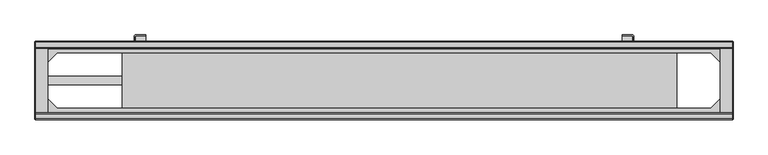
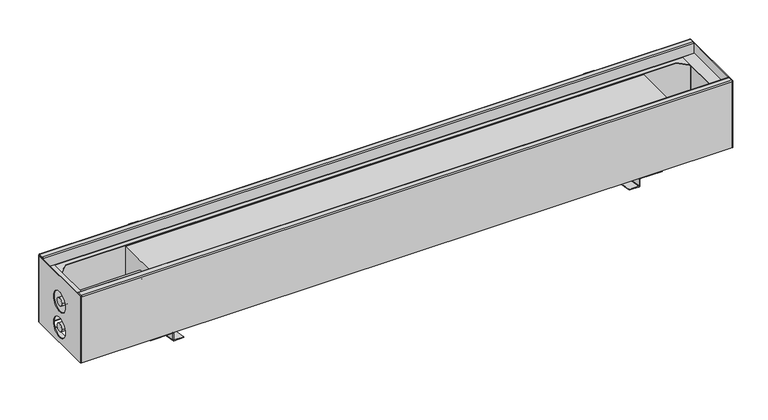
"""IFC4 building model written with IfcOpenShell, lengths in millimetres: proxy geometry, TECHNO_Конвектор напольный_Vita KPZ 135 : KPZ 135-130."""

from ifc_helpers import new_model, si_unit, point, frame, frame_2d, origin, place, context, project, spatial, polyline, circle_curve, trimmed, segment, composite_curve, outline, extrude, source, transform, mapped, element, save
from ifc_brep_helpers import plane_surface, cylinder_surface, revolved_surface, advanced_brep


def mechanical_equipment_4baf3725(model_context):
    return source(origin(), model_context, "Body", "SolidModel", [
        advanced_brep(
        [(430.3, -144.3, 97.67), (471.0, -144.3, 97.67), (471.0, -144.3, 99.17), (430.3, -144.3, 99.17), (428.0, -144.3, 96.87), (428.0, -144.3, 85.0), (429.5, -144.3, 85.0), (429.5, -144.3, 96.87), (430.3, -128.3, 99.17), (471.0, -128.3, 99.17), (471.0, -128.3, 97.67), (430.3, -128.3, 97.67), (429.5, -128.3, 96.87), (428.0, -128.3, 96.87), (473.0, -142.3, 99.17), (473.0, -130.3, 99.17), (473.0, -142.3, 97.67), (473.0, -130.3, 97.67), (428.0, -28.3, 96.87), (428.0, -12.3, 96.87), (428.0, -8.3, 96.87), (428.0, -8.3, 219.87), (428.0, -6.3, 221.87), (428.0, -2.3, 221.87), (428.0, -2.3, 59.9615687), (429.5, -8.3, 96.87), (429.5, -12.3, 96.87), (429.5, -28.3, 96.87), (429.5, -2.3, 59.9615687), (429.5, -2.3, 221.87), (429.5, -6.3, 221.87), (429.5, -8.3, 219.87), (427.2, 0.0, 221.87), (409.5, 0.0, 221.87), (409.5, -1.5, 221.87), (427.2, -1.5, 221.87), (430.3, -28.3, 97.67), (471.0, -28.3, 97.67), (471.0, -28.3, 99.17), (430.3, -28.3, 99.17), (430.3, -12.3, 99.17), (471.0, -12.3, 99.17), (471.0, -12.3, 97.67), (430.3, -12.3, 97.67), (473.0, -26.3, 99.17), (473.0, -14.3, 99.17), (473.0, -26.3, 97.67), (473.0, -14.3, 97.67), (409.5, -2.6993908, 57.6965109), (409.5, -2.4389185, 59.1737225), (427.2, -2.4389185, 59.1737225), (427.2, -2.6993908, 57.6965109), (409.5, -144.6993908, 82.7349422), (427.2, -144.6993908, 82.7349422), (427.2, -144.4389185, 84.2121538), (409.5, -144.4389185, 84.2121538), (409.5, -1.5, 59.9615687), (409.5, 0.0, 59.9615687), (427.2, 0.0, 59.9615687), (427.2, -1.5, 59.9615687)],
        [
            (0, 1),
            (1, 2),
            (2, 3),
            (3, 4, circle_curve(frame((430.3, -144.3, 96.87), z_axis=(0.0, -1.0, 0.0), x_axis=(-1.0, 0.0, 0.0)), 2.3)),
            (4, 5),
            (5, 6),
            (6, 7),
            (7, 0, circle_curve(frame((430.3, -144.3, 96.87), z_axis=(0.0, 1.0, 0.0), x_axis=(-1.0, 0.0, 0.0)), 0.8)),
            (8, 9),
            (9, 10),
            (10, 11),
            (11, 12, circle_curve(frame((430.3, -128.3, 96.87), z_axis=(0.0, -1.0, 0.0), x_axis=(-1.0, 0.0, 0.0)), 0.8)),
            (12, 13),
            (13, 8, circle_curve(frame((430.3, -128.3, 96.87), z_axis=(0.0, 1.0, 0.0), x_axis=(-1.0, 0.0, 0.0)), 2.3)),
            (7, 12),
            (11, 0),
            (3, 8),
            (13, 4),
            (2, 14),
            (14, 15),
            (15, 9),
            (16, 17),
            (17, 15),
            (14, 16),
            (10, 17),
            (16, 1),
            (13, 18),
            (18, 19),
            (19, 20),
            (20, 21),
            (21, 22),
            (22, 23),
            (23, 24),
            (24, 5),
            (25, 26),
            (26, 27),
            (27, 12),
            (6, 28),
            (28, 29),
            (29, 30),
            (30, 31),
            (31, 25),
            (19, 26),
            (25, 20),
            (27, 18),
            (22, 30),
            (29, 32, circle_curve(frame((427.2, -2.3, 221.87), z_axis=(0.0, 0.0, 1.0), x_axis=(1.0, 0.0, 0.0)), 2.3)),
            (32, 33),
            (33, 34),
            (34, 35),
            (35, 23, circle_curve(frame((427.2, -2.3, 221.87), z_axis=(0.0, 0.0, -1.0), x_axis=(1.0, 0.0, 0.0)), 0.8)),
            (21, 31),
            (36, 37),
            (37, 38),
            (38, 39),
            (39, 18, circle_curve(frame((430.3, -28.3, 96.87), z_axis=(0.0, -1.0, 0.0), x_axis=(-1.0, 0.0, 0.0)), 2.3)),
            (27, 36, circle_curve(frame((430.3, -28.3, 96.87), z_axis=(0.0, 1.0, 0.0), x_axis=(-1.0, 0.0, 0.0)), 0.8)),
            (40, 41),
            (41, 42),
            (42, 43),
            (43, 26, circle_curve(frame((430.3, -12.3, 96.87), z_axis=(0.0, -1.0, 0.0), x_axis=(-1.0, 0.0, 0.0)), 0.8)),
            (19, 40, circle_curve(frame((430.3, -12.3, 96.87), z_axis=(0.0, 1.0, 0.0), x_axis=(-1.0, 0.0, 0.0)), 2.3)),
            (43, 36),
            (39, 40),
            (38, 44),
            (44, 45),
            (45, 41),
            (44, 46),
            (46, 47),
            (47, 45),
            (42, 47),
            (46, 37),
            (48, 49),
            (49, 50),
            (50, 24, circle_curve(frame((427.2, -2.3, 59.9615687), z_axis=(0.0, -0.9848077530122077, 0.17364817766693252), x_axis=(0.0, 0.17364817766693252, 0.9848077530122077)), 0.8)),
            (24, 28),
            (28, 51, circle_curve(frame((427.2, -2.3, 59.9615687), z_axis=(0.0, 0.9848077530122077, -0.17364817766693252), x_axis=(0.0, 0.17364817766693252, 0.9848077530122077)), 2.3)),
            (51, 48),
            (52, 53),
            (53, 6, circle_curve(frame((427.2, -144.3, 85.0), z_axis=(0.0, -0.9848077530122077, 0.17364817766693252), x_axis=(0.0, 0.17364817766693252, 0.9848077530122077)), 2.3)),
            (5, 54, circle_curve(frame((427.2, -144.3, 85.0), z_axis=(0.0, 0.9848077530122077, -0.17364817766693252), x_axis=(0.0, 0.17364817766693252, 0.9848077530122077)), 0.8)),
            (54, 55),
            (55, 52),
            (51, 53),
            (52, 48),
            (50, 54),
            (49, 55),
            (56, 57),
            (57, 58),
            (58, 28, circle_curve(frame((427.2, -2.3, 59.9615687), z_axis=(0.0, 0.0, -1.0), x_axis=(1.0, 0.0, 0.0)), 2.3)),
            (24, 59, circle_curve(frame((427.2, -2.3, 59.9615687), z_axis=(0.0, 0.0, 1.0), x_axis=(1.0, 0.0, 0.0)), 0.8)),
            (59, 56),
            (33, 57),
            (56, 34),
            (32, 58),
            (35, 59),
        ],
        [
            plane_surface(frame((429.5, -144.3, 96.87), z_axis=(0.0, -1.0, 0.0), x_axis=(0.0, 0.0, -1.0))),
            plane_surface(frame((429.5, -128.3, 96.87), z_axis=(0.0, 1.0, 0.0), x_axis=(0.0, 0.0, 1.0))),
            revolved_surface(polyline([(429.5, -128.3, 96.87), (429.5, -144.3, 96.87)]), (430.3, -128.3, 96.87), (0.0, 1.0, 0.0)),
            cylinder_surface(frame((430.3, -128.3, 96.87), z_axis=(0.0, -1.0, 0.0), x_axis=(-1.0, 0.0, 0.0)), 2.3),
            plane_surface(frame((430.3, -144.3, 99.17), z_axis=(0.0, 0.0, 1.0), x_axis=(0.0, 1.0, 0.0))),
            plane_surface(frame((473.0, -144.3, 99.17), z_axis=(1.0, 0.0, 0.0), x_axis=(0.0, 1.0, 0.0))),
            plane_surface(frame((473.0, -144.3, 97.67), z_axis=(0.0, 0.0, -1.0), x_axis=(0.0, 1.0, 0.0))),
            plane_surface(frame((471.0, -144.3, 99.17), z_axis=(0.7071067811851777, -0.7071067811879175, 0.0), x_axis=(0.0, 0.0, -1.0))),
            plane_surface(frame((471.0, -128.3, 97.67), z_axis=(0.7071067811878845, 0.7071067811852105, 0.0), x_axis=(0.0, 0.0, 1.0))),
            plane_surface(frame((428.0, -8.3, 96.87), z_axis=(-1.0, 0.0, 0.0), x_axis=(0.0, -1.0, 0.0))),
            plane_surface(frame((429.5, -8.3, 96.87), z_axis=(1.0, 0.0, 0.0), x_axis=(0.0, 1.0, 0.0))),
            plane_surface(frame((428.0, -8.3, 96.87), z_axis=(0.0, 0.0, 1.0), x_axis=(1.0, 0.0, 0.0))),
            plane_surface(frame((428.0, -2.3, 221.87), z_axis=(0.0, 0.0, 1.0), x_axis=(1.0, 0.0, 0.0))),
            plane_surface(frame((428.0, -6.3, 221.87), z_axis=(0.0, -0.7071067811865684, 0.7071067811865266), x_axis=(1.0, 0.0, 0.0))),
            plane_surface(frame((428.0, -8.3, 219.87), z_axis=(0.0, -1.0, 0.0), x_axis=(1.0, 0.0, 0.0))),
            plane_surface(frame((429.5, -28.3, 96.87), z_axis=(0.0, -1.0, 0.0), x_axis=(0.0, 0.0, -1.0))),
            plane_surface(frame((429.5, -12.3, 96.87), z_axis=(0.0, 1.0, 0.0), x_axis=(0.0, 0.0, 1.0))),
            revolved_surface(polyline([(429.5, -12.3, 96.87), (429.5, -28.3, 96.87)]), (430.3, -12.3, 96.87), (0.0, 1.0, 0.0)),
            cylinder_surface(frame((430.3, -12.3, 96.87), z_axis=(0.0, -1.0, 0.0), x_axis=(-1.0, 0.0, 0.0)), 2.3),
            plane_surface(frame((430.3, -28.3, 99.17), z_axis=(0.0, 0.0, 1.0), x_axis=(0.0, 1.0, 0.0))),
            plane_surface(frame((473.0, -28.3, 99.17), z_axis=(1.0, 0.0, 0.0), x_axis=(0.0, 1.0, 0.0))),
            plane_surface(frame((473.0, -28.3, 97.67), z_axis=(0.0, 0.0, -1.0), x_axis=(0.0, 1.0, 0.0))),
            plane_surface(frame((471.0, -12.3, 97.67), z_axis=(0.7071067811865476, 0.7071067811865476, 0.0), x_axis=(0.0, 0.0, 1.0))),
            plane_surface(frame((471.0, -28.3, 99.17), z_axis=(0.7071067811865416, -0.7071067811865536, 0.0), x_axis=(0.0, 0.0, -1.0))),
            plane_surface(frame((429.5, -2.3, 59.9615687), z_axis=(0.0, 0.9848077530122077, -0.17364817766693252), x_axis=(1.0, 0.0, 0.0))),
            plane_surface(frame((429.5, -144.3, 85.0), z_axis=(0.0, -0.9848077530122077, 0.17364817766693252), x_axis=(1.0, 0.0, 0.0))),
            plane_surface(frame((409.5, -2.6993908, 57.6965109), z_axis=(0.0, -0.17364817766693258, -0.9848077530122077), x_axis=(0.0, -0.9848077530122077, 0.17364817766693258))),
            cylinder_surface(frame((427.2, -2.3, 59.9615687), z_axis=(0.0, 0.9848077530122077, -0.17364817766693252), x_axis=(0.0, 0.17364817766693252, 0.9848077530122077)), 2.3),
            revolved_surface(polyline([(427.2, -144.16108146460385, 85.7878461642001), (427.2, -2.1610814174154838, 60.74941489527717)]), (427.2, -2.3, 59.9615687), (0.0, -0.9848077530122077, 0.17364817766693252)),
            plane_surface(frame((427.2, -2.4389185, 59.1737225), z_axis=(0.0, 0.17364817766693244, 0.9848077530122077), x_axis=(0.0, -0.9848077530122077, 0.17364817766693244))),
            plane_surface(frame((409.5, -2.4389185, 59.1737225), z_axis=(-1.0, 0.0, 0.0), x_axis=(0.0, -0.9848077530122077, 0.17364817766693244))),
            plane_surface(frame((429.5, -2.3, 59.9615687), z_axis=(0.0, 0.0, -1.0), x_axis=(1.0, 0.0, 0.0))),
            plane_surface(frame((409.5, -1.5, 221.87), z_axis=(-1.0, 0.0, 0.0), x_axis=(0.0, 0.0, -1.0))),
            plane_surface(frame((409.5, 0.0, 221.87), z_axis=(0.0, 1.0, 0.0), x_axis=(0.0, 0.0, -1.0))),
            cylinder_surface(frame((427.2, -2.3, 221.87), z_axis=(0.0, 0.0, 1.0), x_axis=(1.0, 0.0, 0.0)), 2.3),
            revolved_surface(polyline([(428.0, -2.3, 59.96156869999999), (428.0, -2.3, 221.87)]), (427.2, -2.3, 221.87), (0.0, 0.0, -1.0)),
            plane_surface(frame((427.2, -1.5, 221.87), z_axis=(0.0, -1.0, 0.0), x_axis=(0.0, 0.0, -1.0))),
        ],
        [
            (0, [[1, 2, 3, 4, 5, 6, 7, 8]]),
            (1, [[9, 10, 11, 12, 13, 14]]),
            (2, [[15, -12, 16, -8]]),
            (3, [[17, -14, 18, -4]]),
            (4, [[-3, 19, 20, 21, -9, -17]]),
            (5, [[22, 23, -20, 24]]),
            (6, [[-11, 25, -22, 26, -1, -16]]),
            (7, [[-26, -24, -19, -2]]),
            (8, [[-21, -23, -25, -10]]),
            (9, [[-18, 27, 28, 29, 30, 31, 32, 33, 34, -5]]),
            (10, [[35, 36, 37, -15, -7, 38, 39, 40, 41, 42]]),
            (11, [[-29, 43, -35, 44]]),
            (11, [[45, -27, -13, -37]]),
            (12, [[46, -40, 47, 48, 49, 50, 51, -32]]),
            (13, [[52, -41, -46, -31]]),
            (14, [[-44, -42, -52, -30]]),
            (15, [[53, 54, 55, 56, -45, 57]]),
            (16, [[58, 59, 60, 61, -43, 62]]),
            (17, [[-36, -61, 63, -57]]),
            (18, [[64, -62, -28, -56]]),
            (19, [[-55, 65, 66, 67, -58, -64]]),
            (20, [[-66, 68, 69, 70]]),
            (21, [[-60, 71, -69, 72, -53, -63]]),
            (22, [[-67, -70, -71, -59]]),
            (23, [[-72, -68, -65, -54]]),
            (24, [[73, 74, 75, 76, 77, 78]]),
            (25, [[79, 80, -6, 81, 82, 83]]),
            (26, [[84, -79, 85, -78]]),
            (27, [[-38, -80, -84, -77]]),
            (28, [[86, -81, -34, -75]]),
            (29, [[87, -82, -86, -74]]),
            (30, [[-85, -83, -87, -73]]),
            (31, [[88, 89, 90, -76, 91, 92]]),
            (32, [[93, -88, 94, -49]]),
            (33, [[95, -89, -93, -48]]),
            (34, [[-39, -90, -95, -47]]),
            (35, [[96, -91, -33, -51]]),
            (36, [[-94, -92, -96, -50]]),
        ],
    ),
        advanced_brep(
        [(-430.3, -144.3, 97.67), (-429.5, -144.3, 96.87), (-429.5, -144.3, 85.0), (-428.0, -144.3, 85.0), (-428.0, -144.3, 96.87), (-430.3, -144.3, 99.17), (-471.0, -144.3, 99.17), (-471.0, -144.3, 97.67), (-430.3, -128.3, 99.17), (-428.0, -128.3, 96.87), (-429.5, -128.3, 96.87), (-430.3, -128.3, 97.67), (-471.0, -128.3, 97.67), (-471.0, -128.3, 99.17), (-473.0, -130.3, 99.17), (-473.0, -142.3, 99.17), (-473.0, -142.3, 97.67), (-473.0, -130.3, 97.67), (-428.0, -2.3, 59.9615687), (-428.0, -2.3, 221.87), (-428.0, -6.3, 221.87), (-428.0, -8.3, 219.87), (-428.0, -8.3, 96.87), (-428.0, -12.3, 96.87), (-428.0, -28.3, 96.87), (-429.5, -8.3, 96.87), (-429.5, -8.3, 219.87), (-429.5, -6.3, 221.87), (-429.5, -2.3, 221.87), (-429.5, -2.3, 59.9615687), (-429.5, -28.3, 96.87), (-429.5, -12.3, 96.87), (-427.2, -1.5, 221.87), (-409.5, -1.5, 221.87), (-409.5, 0.0, 221.87), (-427.2, 0.0, 221.87), (-430.3, -28.3, 97.67), (-430.3, -28.3, 99.17), (-471.0, -28.3, 99.17), (-471.0, -28.3, 97.67), (-430.3, -12.3, 99.17), (-430.3, -12.3, 97.67), (-471.0, -12.3, 97.67), (-471.0, -12.3, 99.17), (-473.0, -14.3, 99.17), (-473.0, -26.3, 99.17), (-473.0, -14.3, 97.67), (-473.0, -26.3, 97.67), (-409.5, -2.6993908, 57.6965109), (-427.2, -2.6993908, 57.6965109), (-427.2, -2.4389185, 59.1737225), (-409.5, -2.4389185, 59.1737225), (-409.5, -144.6993908, 82.7349422), (-409.5, -144.4389185, 84.2121538), (-427.2, -144.4389185, 84.2121538), (-427.2, -144.6993908, 82.7349422), (-409.5, -1.5, 59.9615687), (-427.2, -1.5, 59.9615687), (-427.2, 0.0, 59.9615687), (-409.5, 0.0, 59.9615687)],
        [
            (0, 1, circle_curve(frame((-430.3, -144.3, 96.87), z_axis=(0.0, 1.0, 0.0), x_axis=(1.0, 0.0, 0.0)), 0.8)),
            (1, 2),
            (2, 3),
            (3, 4),
            (4, 5, circle_curve(frame((-430.3, -144.3, 96.87), z_axis=(0.0, -1.0, 0.0), x_axis=(1.0, 0.0, 0.0)), 2.3)),
            (5, 6),
            (6, 7),
            (7, 0),
            (8, 9, circle_curve(frame((-430.3, -128.3, 96.87), z_axis=(0.0, 1.0, 0.0), x_axis=(1.0, 0.0, 0.0)), 2.3)),
            (9, 10),
            (10, 11, circle_curve(frame((-430.3, -128.3, 96.87), z_axis=(0.0, -1.0, 0.0), x_axis=(1.0, 0.0, 0.0)), 0.8)),
            (11, 12),
            (12, 13),
            (13, 8),
            (0, 11),
            (10, 1),
            (4, 9),
            (8, 5),
            (13, 14),
            (14, 15),
            (15, 6),
            (16, 15),
            (14, 17),
            (17, 16),
            (7, 16),
            (17, 12),
            (3, 18),
            (18, 19),
            (19, 20),
            (20, 21),
            (21, 22),
            (22, 23),
            (23, 24),
            (24, 9),
            (25, 26),
            (26, 27),
            (27, 28),
            (28, 29),
            (29, 2),
            (10, 30),
            (30, 31),
            (31, 25),
            (24, 30),
            (22, 25),
            (31, 23),
            (19, 32, circle_curve(frame((-427.2, -2.3, 221.87), z_axis=(0.0, 0.0, -1.0), x_axis=(-1.0, 0.0, 0.0)), 0.8)),
            (32, 33),
            (33, 34),
            (34, 35),
            (35, 28, circle_curve(frame((-427.2, -2.3, 221.87), z_axis=(0.0, 0.0, 1.0), x_axis=(-1.0, 0.0, 0.0)), 2.3)),
            (27, 20),
            (26, 21),
            (36, 30, circle_curve(frame((-430.3, -28.3, 96.87), z_axis=(0.0, 1.0, 0.0), x_axis=(1.0, 0.0, 0.0)), 0.8)),
            (24, 37, circle_curve(frame((-430.3, -28.3, 96.87), z_axis=(0.0, -1.0, 0.0), x_axis=(1.0, 0.0, 0.0)), 2.3)),
            (37, 38),
            (38, 39),
            (39, 36),
            (40, 23, circle_curve(frame((-430.3, -12.3, 96.87), z_axis=(0.0, 1.0, 0.0), x_axis=(1.0, 0.0, 0.0)), 2.3)),
            (31, 41, circle_curve(frame((-430.3, -12.3, 96.87), z_axis=(0.0, -1.0, 0.0), x_axis=(1.0, 0.0, 0.0)), 0.8)),
            (41, 42),
            (42, 43),
            (43, 40),
            (36, 41),
            (40, 37),
            (43, 44),
            (44, 45),
            (45, 38),
            (44, 46),
            (46, 47),
            (47, 45),
            (39, 47),
            (46, 42),
            (48, 49),
            (49, 29, circle_curve(frame((-427.2, -2.3, 59.9615687), z_axis=(0.0, 0.9848077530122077, -0.17364817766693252), x_axis=(0.0, 0.17364817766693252, 0.9848077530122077)), 2.3)),
            (29, 18),
            (18, 50, circle_curve(frame((-427.2, -2.3, 59.9615687), z_axis=(0.0, -0.9848077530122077, 0.17364817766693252), x_axis=(0.0, 0.17364817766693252, 0.9848077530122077)), 0.8)),
            (50, 51),
            (51, 48),
            (52, 53),
            (53, 54),
            (54, 3, circle_curve(frame((-427.2, -144.3, 85.0), z_axis=(0.0, 0.9848077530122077, -0.17364817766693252), x_axis=(0.0, 0.17364817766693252, 0.9848077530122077)), 0.8)),
            (2, 55, circle_curve(frame((-427.2, -144.3, 85.0), z_axis=(0.0, -0.9848077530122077, 0.17364817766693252), x_axis=(0.0, 0.17364817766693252, 0.9848077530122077)), 2.3)),
            (55, 52),
            (48, 52),
            (55, 49),
            (54, 50),
            (53, 51),
            (56, 57),
            (57, 18, circle_curve(frame((-427.2, -2.3, 59.9615687), z_axis=(0.0, 0.0, 1.0), x_axis=(-1.0, 0.0, 0.0)), 0.8)),
            (29, 58, circle_curve(frame((-427.2, -2.3, 59.9615687), z_axis=(0.0, 0.0, -1.0), x_axis=(-1.0, 0.0, 0.0)), 2.3)),
            (58, 59),
            (59, 56),
            (33, 56),
            (59, 34),
            (58, 35),
            (57, 32),
        ],
        [
            plane_surface(frame((-429.5, -144.3, 96.87), z_axis=(0.0, -1.0, 0.0), x_axis=(0.0, 0.0, -1.0))),
            plane_surface(frame((-429.5, -128.3, 96.87), z_axis=(0.0, 1.0, 0.0), x_axis=(0.0, 0.0, 1.0))),
            revolved_surface(polyline([(-429.5, -128.3, 96.87), (-429.5, -144.3, 96.87)]), (-430.3, -128.3, 96.87), (0.0, 1.0, 0.0)),
            cylinder_surface(frame((-430.3, -128.3, 96.87), z_axis=(0.0, -1.0, 0.0), x_axis=(1.0, 0.0, 0.0)), 2.3),
            plane_surface(frame((-430.3, -144.3, 99.17), z_axis=(0.0, 0.0, 1.0), x_axis=(0.0, 1.0, 0.0))),
            plane_surface(frame((-473.0, -144.3, 99.17), z_axis=(-1.0, 0.0, 0.0), x_axis=(0.0, 1.0, 0.0))),
            plane_surface(frame((-473.0, -144.3, 97.67), z_axis=(0.0, 0.0, -1.0), x_axis=(0.0, 1.0, 0.0))),
            plane_surface(frame((-471.0, -144.3, 99.17), z_axis=(-0.7071067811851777, -0.7071067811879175, 0.0), x_axis=(0.0, 0.0, -1.0))),
            plane_surface(frame((-471.0, -128.3, 97.67), z_axis=(-0.7071067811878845, 0.7071067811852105, 0.0), x_axis=(0.0, 0.0, 1.0))),
            plane_surface(frame((-428.0, -8.3, 96.87), z_axis=(1.0, 0.0, 0.0), x_axis=(0.0, -1.0, 0.0))),
            plane_surface(frame((-429.5, -8.3, 96.87), z_axis=(-1.0, 0.0, 0.0), x_axis=(0.0, 1.0, 0.0))),
            plane_surface(frame((-428.0, -8.3, 96.87), z_axis=(0.0, 0.0, 1.0), x_axis=(-1.0, 0.0, 0.0))),
            plane_surface(frame((-428.0, -2.3, 221.87), z_axis=(0.0, 0.0, 1.0), x_axis=(-1.0, 0.0, 0.0))),
            plane_surface(frame((-428.0, -6.3, 221.87), z_axis=(0.0, -0.7071067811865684, 0.7071067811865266), x_axis=(-1.0, 0.0, 0.0))),
            plane_surface(frame((-428.0, -8.3, 219.87), z_axis=(0.0, -1.0, 0.0), x_axis=(-1.0, 0.0, 0.0))),
            plane_surface(frame((-429.5, -28.3, 96.87), z_axis=(0.0, -1.0, 0.0), x_axis=(0.0, 0.0, -1.0))),
            plane_surface(frame((-429.5, -12.3, 96.87), z_axis=(0.0, 1.0, 0.0), x_axis=(0.0, 0.0, 1.0))),
            revolved_surface(polyline([(-429.5, -12.3, 96.87), (-429.5, -28.3, 96.87)]), (-430.3, -12.3, 96.87), (0.0, 1.0, 0.0)),
            cylinder_surface(frame((-430.3, -12.3, 96.87), z_axis=(0.0, -1.0, 0.0), x_axis=(1.0, 0.0, 0.0)), 2.3),
            plane_surface(frame((-430.3, -28.3, 99.17), z_axis=(0.0, 0.0, 1.0), x_axis=(0.0, 1.0, 0.0))),
            plane_surface(frame((-473.0, -28.3, 99.17), z_axis=(-1.0, 0.0, 0.0), x_axis=(0.0, 1.0, 0.0))),
            plane_surface(frame((-473.0, -28.3, 97.67), z_axis=(0.0, 0.0, -1.0), x_axis=(0.0, 1.0, 0.0))),
            plane_surface(frame((-471.0, -12.3, 97.67), z_axis=(-0.7071067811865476, 0.7071067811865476, 0.0), x_axis=(0.0, 0.0, 1.0))),
            plane_surface(frame((-471.0, -28.3, 99.17), z_axis=(-0.7071067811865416, -0.7071067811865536, 0.0), x_axis=(0.0, 0.0, -1.0))),
            plane_surface(frame((-429.5, -2.3, 59.9615687), z_axis=(0.0, 0.9848077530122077, -0.17364817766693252), x_axis=(-1.0, 0.0, 0.0))),
            plane_surface(frame((-429.5, -144.3, 85.0), z_axis=(0.0, -0.9848077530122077, 0.17364817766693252), x_axis=(-1.0, 0.0, 0.0))),
            plane_surface(frame((-409.5, -2.6993908, 57.6965109), z_axis=(0.0, -0.17364817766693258, -0.9848077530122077), x_axis=(0.0, -0.9848077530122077, 0.17364817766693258))),
            cylinder_surface(frame((-427.2, -2.3, 59.9615687), z_axis=(0.0, 0.9848077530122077, -0.17364817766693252), x_axis=(0.0, 0.17364817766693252, 0.9848077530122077)), 2.3),
            revolved_surface(polyline([(-427.2, -144.16108146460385, 85.7878461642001), (-427.2, -2.1610814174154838, 60.74941489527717)]), (-427.2, -2.3, 59.9615687), (0.0, -0.9848077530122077, 0.17364817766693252)),
            plane_surface(frame((-427.2, -2.4389185, 59.1737225), z_axis=(0.0, 0.17364817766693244, 0.9848077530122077), x_axis=(0.0, -0.9848077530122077, 0.17364817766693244))),
            plane_surface(frame((-409.5, -2.4389185, 59.1737225), z_axis=(1.0, 0.0, 0.0), x_axis=(0.0, -0.9848077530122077, 0.17364817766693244))),
            plane_surface(frame((-429.5, -2.3, 59.9615687), z_axis=(0.0, 0.0, -1.0), x_axis=(-1.0, 0.0, 0.0))),
            plane_surface(frame((-409.5, -1.5, 221.87), z_axis=(1.0, 0.0, 0.0), x_axis=(0.0, 0.0, -1.0))),
            plane_surface(frame((-409.5, 0.0, 221.87), z_axis=(0.0, 1.0, 0.0), x_axis=(0.0, 0.0, -1.0))),
            cylinder_surface(frame((-427.2, -2.3, 221.87), z_axis=(0.0, 0.0, 1.0), x_axis=(-1.0, 0.0, 0.0)), 2.3),
            revolved_surface(polyline([(-428.0, -2.3, 59.96156869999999), (-428.0, -2.3, 221.87)]), (-427.2, -2.3, 221.87), (0.0, 0.0, -1.0)),
            plane_surface(frame((-427.2, -1.5, 221.87), z_axis=(0.0, -1.0, 0.0), x_axis=(0.0, 0.0, -1.0))),
        ],
        [
            (0, [[1, 2, 3, 4, 5, 6, 7, 8]]),
            (1, [[9, 10, 11, 12, 13, 14]]),
            (2, [[-1, 15, -11, 16]]),
            (3, [[-5, 17, -9, 18]]),
            (4, [[-18, -14, 19, 20, 21, -6]]),
            (5, [[22, -20, 23, 24]]),
            (6, [[-15, -8, 25, -24, 26, -12]]),
            (7, [[-7, -21, -22, -25]]),
            (8, [[-13, -26, -23, -19]]),
            (9, [[-4, 27, 28, 29, 30, 31, 32, 33, 34, -17]]),
            (10, [[35, 36, 37, 38, 39, -2, -16, 40, 41, 42]]),
            (11, [[-40, -10, -34, 43]]),
            (11, [[44, -42, 45, -32]]),
            (12, [[-29, 46, 47, 48, 49, 50, -37, 51]]),
            (13, [[-30, -51, -36, 52]]),
            (14, [[-31, -52, -35, -44]]),
            (15, [[53, -43, 54, 55, 56, 57]]),
            (16, [[58, -45, 59, 60, 61, 62]]),
            (17, [[-53, 63, -59, -41]]),
            (18, [[-54, -33, -58, 64]]),
            (19, [[-64, -62, 65, 66, 67, -55]]),
            (20, [[68, 69, 70, -66]]),
            (21, [[-63, -57, 71, -69, 72, -60]]),
            (22, [[-61, -72, -68, -65]]),
            (23, [[-56, -67, -70, -71]]),
            (24, [[73, 74, 75, 76, 77, 78]]),
            (25, [[79, 80, 81, -3, 82, 83]]),
            (26, [[-73, 84, -83, 85]]),
            (27, [[-74, -85, -82, -39]]),
            (28, [[-76, -27, -81, 86]]),
            (29, [[-77, -86, -80, 87]]),
            (30, [[-78, -87, -79, -84]]),
            (31, [[88, 89, -75, 90, 91, 92]]),
            (32, [[-48, 93, -92, 94]]),
            (33, [[-49, -94, -91, 95]]),
            (34, [[-50, -95, -90, -38]]),
            (35, [[-46, -28, -89, 96]]),
            (36, [[-47, -96, -88, -93]]),
        ],
    ),
        extrude(outline(polyline([(503.5, -28.3), (503.5, -128.3), (-449.5, -128.3), (-449.5, -28.3), (503.5, -28.3)])), frame((0.0, 0.0, 103.87), z_axis=(0.0, 0.0, 1.0), x_axis=(1.0, 0.0, 0.0)), (0.0, 0.0, 1.0), 100.0),
        extrude(outline(composite_curve([segment(trimmed(circle_curve(frame_2d((-78.3, 179.0)), 7.5), [point((-85.8, 179.0))], [point((-70.8, 179.0))], False, "CARTESIAN"), True, "CONTINUOUS"), segment(trimmed(circle_curve(frame_2d((-78.3, 179.0)), 7.5), [point((-70.8, 179.0))], [point((-85.8, 179.0))], False, "CARTESIAN"), True, "CONTINUOUS")], self_intersect=False)), frame((-600.0, 0.0, 0.0), z_axis=(1.0, 0.0, 0.0), x_axis=(0.0, 1.0, 0.0)), (0.0, 0.0, 1.0), 150.5),
        extrude(outline(composite_curve([segment(trimmed(circle_curve(frame_2d((-78.3, 129.0)), 7.5), [point((-85.8, 129.0))], [point((-70.8, 129.0))], False, "CARTESIAN"), True, "CONTINUOUS"), segment(trimmed(circle_curve(frame_2d((-78.3, 129.0)), 7.5), [point((-70.8, 129.0))], [point((-85.8, 129.0))], False, "CARTESIAN"), True, "CONTINUOUS")], self_intersect=False)), frame((-600.0, 0.0, 0.0), z_axis=(1.0, 0.0, 0.0), x_axis=(0.0, 1.0, 0.0)), (0.0, 0.0, 1.0), 150.5),
        extrude(outline(polyline([(-585.5004, -12.8), (-585.5004, -143.8), (-599.0, -143.8), (-599.0, -12.8), (-585.5004, -12.8)])), frame((0.0, 0.0, 101.83), z_axis=(0.0, 0.0, 1.0), x_axis=(1.0, 0.0, 0.0)), (0.0, 0.0, 1.0), 1.0002),
        extrude(outline(polyline([(585.5004, -12.8), (599.0, -12.8), (599.0, -143.8), (585.5004, -143.8), (585.5004, -12.8)])), frame((0.0, 0.0, 101.83), z_axis=(0.0, 0.0, 1.0), x_axis=(1.0, 0.0, 0.0)), (0.0, 0.0, 1.0), 1.0002),
        extrude(outline(polyline([(-599.0, -133.0), (-599.0, -23.6), (-578.0, -23.6), (-578.0, -133.0), (-599.0, -133.0)])), frame((0.0, 0.0, 208.83), z_axis=(0.0, 0.0, 1.0), x_axis=(1.0, 0.0, 0.0)), (0.0, 0.0, 1.0), 1.0002),
        extrude(outline(polyline([(599.0, -133.0), (578.0, -133.0), (578.0, -23.6), (599.0, -23.6), (599.0, -133.0)])), frame((0.0, 0.0, 208.83), z_axis=(0.0, 0.0, 1.0), x_axis=(1.0, 0.0, 0.0)), (0.0, 0.0, 1.0), 1.0002),
        advanced_brep(
        [(-598.2, -12.6, 230.83), (-598.2, -10.8, 229.03), (-598.2, -11.8, 229.03), (-598.2, -11.8, 207.83), (-598.2, -49.3, 207.83), (-598.2, -49.3, 208.83), (-598.2, -23.6, 208.83), (-598.2, -22.8, 209.63), (-598.2, -22.8, 229.03), (-598.2, -21.0, 230.83), (-598.2, -144.0, 230.83), (-598.2, -135.6, 230.83), (-598.2, -133.8, 229.03), (-598.2, -133.8, 209.63), (-598.2, -133.0, 208.83), (-598.2, -107.3, 208.83), (-598.2, -107.3, 207.83), (-598.2, -144.8, 207.83), (-598.2, -144.8, 229.03), (-598.2, -145.8, 229.03), (598.2, -12.6, 230.83), (598.2, -21.0, 230.83), (598.2, -22.8, 229.03), (598.2, -22.8, 209.63), (598.2, -23.6, 208.83), (598.2, -49.3, 208.83), (598.2, -49.3, 207.83), (598.2, -11.8, 207.83), (598.2, -11.8, 229.03), (598.2, -10.8, 229.03), (598.2, -144.0, 230.83), (598.2, -145.8, 229.03), (598.2, -144.8, 229.03), (598.2, -144.8, 207.83), (598.2, -107.3, 207.83), (598.2, -107.3, 208.83), (598.2, -133.0, 208.83), (598.2, -133.8, 209.63), (598.2, -133.8, 229.03), (598.2, -135.6, 230.83), (-580.3, -49.3, 208.83), (-561.8, -30.8, 208.83), (561.8, -30.8, 208.83), (580.3, -49.3, 208.83), (-580.3, -49.3, 207.83), (580.3, -49.3, 207.83), (561.8, -30.8, 207.83), (-561.8, -30.8, 207.83), (598.2, -10.8, 100.0), (-598.2, -10.8, 100.0), (-598.2, -145.8, 100.0), (598.2, -145.8, 100.0), (580.3, -107.3, 207.83), (-580.3, -107.3, 207.83), (-561.8, -125.8, 207.83), (561.8, -125.8, 207.83), (-580.3, -107.3, 208.83), (580.3, -107.3, 208.83), (561.8, -125.8, 208.83), (-561.8, -125.8, 208.83), (-600.0, -12.6, 229.03), (-600.0, -144.0, 229.03), (-599.0, -144.0, 229.03), (-599.0, -12.6, 229.03), (600.0, -144.0, 229.03), (600.0, -12.6, 229.03), (599.0, -12.6, 229.03), (599.0, -144.0, 229.03), (600.0, -12.6, 100.0), (600.0, -144.0, 100.0), (-600.0, -144.0, 100.0), (-600.0, -12.6, 100.0), (599.0, -12.6, 100.0), (598.2, -11.8, 100.0), (598.2, -23.8, 100.0), (-598.2, -23.8, 100.0), (-598.2, -11.8, 100.0), (-599.0, -12.6, 100.0), (-599.0, -144.0, 100.0), (-598.2, -144.8, 100.0), (-598.2, -132.8, 100.0), (598.2, -132.8, 100.0), (598.2, -144.8, 100.0), (599.0, -144.0, 100.0), (-598.2, -11.8, 100.83), (598.2, -11.8, 100.83), (598.2, -144.8, 100.83), (-598.2, -144.8, 100.83), (-600.0, -97.3, 179.0), (-600.0, -59.3, 179.0), (-600.0, -97.3, 129.0), (-600.0, -59.3, 129.0), (-599.0, -59.3, 179.0), (-599.0, -97.3, 179.0), (-599.0, -59.3, 129.0), (-599.0, -97.3, 129.0), (-598.2, -23.8, 100.83), (598.2, -23.8, 100.83), (598.2, -132.8, 100.83), (-598.2, -132.8, 100.83)],
        [
            (0, 1, circle_curve(frame((-598.2, -12.6, 229.03), z_axis=(-1.0, 0.0, 0.0), x_axis=(0.0, 1.0, 0.0)), 1.8)),
            (1, 2),
            (2, 3),
            (3, 4),
            (4, 5),
            (5, 6),
            (6, 7, circle_curve(frame((-598.2, -23.6, 209.63), z_axis=(1.0, 0.0, 0.0), x_axis=(0.0, 1.0, 0.0)), 0.8)),
            (7, 8),
            (8, 9, circle_curve(frame((-598.2, -21.0, 229.03), z_axis=(-1.0, 0.0, 0.0), x_axis=(0.0, 1.0, 0.0)), 1.8)),
            (9, 0),
            (10, 11),
            (11, 12, circle_curve(frame((-598.2, -135.6, 229.03), z_axis=(-1.0, 0.0, 0.0), x_axis=(0.0, 1.0, 0.0)), 1.8)),
            (12, 13),
            (13, 14, circle_curve(frame((-598.2, -133.0, 209.63), z_axis=(1.0, 0.0, 0.0), x_axis=(0.0, 1.0, 0.0)), 0.8)),
            (14, 15),
            (15, 16),
            (16, 17),
            (17, 18),
            (18, 19),
            (19, 10, circle_curve(frame((-598.2, -144.0, 229.03), z_axis=(-1.0, 0.0, 0.0), x_axis=(0.0, 1.0, 0.0)), 1.8)),
            (20, 21),
            (21, 22, circle_curve(frame((598.2, -21.0, 229.03), z_axis=(1.0, 0.0, 0.0), x_axis=(0.0, 1.0, 0.0)), 1.8)),
            (22, 23),
            (23, 24, circle_curve(frame((598.2, -23.6, 209.63), z_axis=(-1.0, 0.0, 0.0), x_axis=(0.0, 1.0, 0.0)), 0.8)),
            (24, 25),
            (25, 26),
            (26, 27),
            (27, 28),
            (28, 29),
            (29, 20, circle_curve(frame((598.2, -12.6, 229.03), z_axis=(1.0, 0.0, 0.0), x_axis=(0.0, 1.0, 0.0)), 1.8)),
            (30, 31, circle_curve(frame((598.2, -144.0, 229.03), z_axis=(1.0, 0.0, 0.0), x_axis=(0.0, 1.0, 0.0)), 1.8)),
            (31, 32),
            (32, 33),
            (33, 34),
            (34, 35),
            (35, 36),
            (36, 37, circle_curve(frame((598.2, -133.0, 209.63), z_axis=(-1.0, 0.0, 0.0), x_axis=(0.0, 1.0, 0.0)), 0.8)),
            (37, 38),
            (38, 39, circle_curve(frame((598.2, -135.6, 229.03), z_axis=(1.0, 0.0, 0.0), x_axis=(0.0, 1.0, 0.0)), 1.8)),
            (39, 30),
            (9, 21),
            (20, 0),
            (8, 22),
            (7, 23),
            (6, 24),
            (5, 40),
            (40, 41),
            (41, 42),
            (42, 43),
            (43, 25),
            (4, 44),
            (44, 40),
            (43, 45),
            (45, 26),
            (45, 46),
            (46, 47),
            (47, 44),
            (3, 27),
            (1, 29),
            (29, 48),
            (48, 49),
            (49, 1),
            (19, 31),
            (30, 10),
            (19, 50),
            (50, 51),
            (51, 31),
            (52, 34),
            (33, 17),
            (16, 53),
            (53, 54),
            (54, 55),
            (55, 52),
            (15, 56),
            (56, 53),
            (52, 57),
            (57, 35),
            (14, 36),
            (57, 58),
            (58, 59),
            (59, 56),
            (13, 37),
            (12, 38),
            (11, 39),
            (42, 46),
            (41, 47),
            (58, 55),
            (54, 59),
            (1, 60, circle_curve(frame((-598.2, -12.6, 229.03), z_axis=(0.0, 0.0, 1.0), x_axis=(1.0, 0.0, 0.0)), 1.8)),
            (60, 61),
            (61, 19, circle_curve(frame((-598.2, -144.0, 229.03), z_axis=(0.0, 0.0, 1.0), x_axis=(1.0, 0.0, 0.0)), 1.8)),
            (18, 62, circle_curve(frame((-598.2, -144.0, 229.03), z_axis=(0.0, 0.0, -1.0), x_axis=(1.0, 0.0, 0.0)), 0.8)),
            (62, 63),
            (63, 2, circle_curve(frame((-598.2, -12.6, 229.03), z_axis=(0.0, 0.0, -1.0), x_axis=(1.0, 0.0, 0.0)), 0.8)),
            (31, 64, circle_curve(frame((598.2, -144.0, 229.03), z_axis=(0.0, 0.0, 1.0), x_axis=(1.0, 0.0, 0.0)), 1.8)),
            (64, 65),
            (65, 29, circle_curve(frame((598.2, -12.6, 229.03), z_axis=(0.0, 0.0, 1.0), x_axis=(1.0, 0.0, 0.0)), 1.8)),
            (28, 66, circle_curve(frame((598.2, -12.6, 229.03), z_axis=(0.0, 0.0, -1.0), x_axis=(1.0, 0.0, 0.0)), 0.8)),
            (66, 67),
            (67, 32, circle_curve(frame((598.2, -144.0, 229.03), z_axis=(0.0, 0.0, -1.0), x_axis=(1.0, 0.0, 0.0)), 0.8)),
            (48, 68, circle_curve(frame((598.2, -12.6, 100.0), z_axis=(0.0, 0.0, -1.0), x_axis=(1.0, 0.0, 0.0)), 1.8)),
            (68, 69),
            (69, 51, circle_curve(frame((598.2, -144.0, 100.0), z_axis=(0.0, 0.0, -1.0), x_axis=(1.0, 0.0, 0.0)), 1.8)),
            (50, 70, circle_curve(frame((-598.2, -144.0, 100.0), z_axis=(0.0, 0.0, -1.0), x_axis=(1.0, 0.0, 0.0)), 1.8)),
            (70, 71),
            (71, 49, circle_curve(frame((-598.2, -12.6, 100.0), z_axis=(0.0, 0.0, -1.0), x_axis=(1.0, 0.0, 0.0)), 1.8)),
            (72, 73, circle_curve(frame((598.2, -12.6, 100.0), z_axis=(0.0, 0.0, 1.0), x_axis=(1.0, 0.0, 0.0)), 0.8)),
            (73, 74),
            (74, 75),
            (75, 76),
            (76, 77, circle_curve(frame((-598.2, -12.6, 100.0), z_axis=(0.0, 0.0, 1.0), x_axis=(1.0, 0.0, 0.0)), 0.8)),
            (77, 78),
            (78, 79, circle_curve(frame((-598.2, -144.0, 100.0), z_axis=(0.0, 0.0, 1.0), x_axis=(1.0, 0.0, 0.0)), 0.8)),
            (79, 80),
            (80, 81),
            (81, 82),
            (82, 83, circle_curve(frame((598.2, -144.0, 100.0), z_axis=(0.0, 0.0, 1.0), x_axis=(1.0, 0.0, 0.0)), 0.8)),
            (83, 72),
            (71, 60),
            (63, 77),
            (76, 84),
            (84, 3),
            (84, 85),
            (85, 27),
            (85, 73),
            (72, 66),
            (83, 67),
            (64, 69),
            (68, 65),
            (82, 86),
            (86, 33),
            (86, 87),
            (87, 17),
            (87, 79),
            (78, 62),
            (70, 61),
            (88, 89, circle_curve(frame((-600.0, -78.3, 179.0), z_axis=(1.0, 0.0, 0.0), x_axis=(0.0, 1.0, 0.0)), 19.0)),
            (89, 88, circle_curve(frame((-600.0, -78.3, 179.0), z_axis=(1.0, 0.0, 0.0), x_axis=(0.0, 1.0, 0.0)), 19.0)),
            (90, 91, circle_curve(frame((-600.0, -78.3, 129.0), z_axis=(1.0, 0.0, 0.0), x_axis=(0.0, 1.0, 0.0)), 19.0)),
            (91, 90, circle_curve(frame((-600.0, -78.3, 129.0), z_axis=(1.0, 0.0, 0.0), x_axis=(0.0, 1.0, 0.0)), 19.0)),
            (92, 93, circle_curve(frame((-599.0, -78.3, 179.0), z_axis=(-1.0, 0.0, 0.0), x_axis=(0.0, 1.0, 0.0)), 19.0)),
            (93, 92, circle_curve(frame((-599.0, -78.3, 179.0), z_axis=(-1.0, 0.0, 0.0), x_axis=(0.0, 1.0, 0.0)), 19.0)),
            (94, 95, circle_curve(frame((-599.0, -78.3, 129.0), z_axis=(-1.0, 0.0, 0.0), x_axis=(0.0, 1.0, 0.0)), 19.0)),
            (95, 94, circle_curve(frame((-599.0, -78.3, 129.0), z_axis=(-1.0, 0.0, 0.0), x_axis=(0.0, 1.0, 0.0)), 19.0)),
            (96, 97),
            (97, 85),
            (84, 96),
            (98, 99),
            (99, 87),
            (86, 98),
            (74, 97),
            (96, 75),
            (80, 99),
            (98, 81),
            (88, 93),
            (92, 89),
            (90, 95),
            (94, 91),
        ],
        [
            plane_surface(frame((-598.2, -21.0, 230.83), z_axis=(-1.0, 0.0, 0.0), x_axis=(0.0, 1.0, 0.0))),
            plane_surface(frame((598.2, -21.0, 230.83), z_axis=(1.0, 0.0, 0.0), x_axis=(0.0, -1.0, 0.0))),
            plane_surface(frame((598.2, -12.6, 230.83), z_axis=(0.0, 0.0, 1.0), x_axis=(-1.0, 0.0, 0.0))),
            cylinder_surface(frame((-598.2, -21.0, 229.03), z_axis=(1.0, 0.0, 0.0), x_axis=(0.0, 1.0, 0.0)), 1.8),
            plane_surface(frame((598.2, -22.8, 229.03), z_axis=(0.0, -1.0, 0.0), x_axis=(-1.0, 0.0, 0.0))),
            revolved_surface(polyline([(-598.2, -22.8, 209.63), (598.2, -22.8, 209.63)]), (-598.2, -23.6, 209.63), (-1.0, 0.0, 0.0)),
            plane_surface(frame((598.2, -23.6, 208.83), z_axis=(0.0, 0.0, 1.0), x_axis=(-1.0, 0.0, 0.0))),
            plane_surface(frame((598.2, -49.3, 208.83), z_axis=(0.0, -1.0, 0.0), x_axis=(-1.0, 0.0, 0.0))),
            plane_surface(frame((598.2, -49.3, 207.83), z_axis=(0.0, 0.0, -1.0), x_axis=(-1.0, 0.0, 0.0))),
            plane_surface(frame((598.2, -10.8, 207.83), z_axis=(0.0, 1.0, 0.0), x_axis=(-1.0, 0.0, 0.0))),
            cylinder_surface(frame((-598.2, -12.6, 229.03), z_axis=(1.0, 0.0, 0.0), x_axis=(0.0, 1.0, 0.0)), 1.8),
            cylinder_surface(frame((0.0, -144.0, 229.03), z_axis=(1.0, 0.0, 0.0), x_axis=(0.0, 1.0, 0.0)), 1.8),
            plane_surface(frame((598.2, -145.8, 229.03), z_axis=(0.0, -1.0, 0.0), x_axis=(-1.0, 0.0, 0.0))),
            plane_surface(frame((598.2, -145.8, 207.83), z_axis=(0.0, 0.0, -1.0), x_axis=(-1.0, 0.0, 0.0))),
            plane_surface(frame((598.2, -107.3, 207.83), z_axis=(0.0, 1.0, 0.0), x_axis=(-1.0, 0.0, 0.0))),
            plane_surface(frame((598.2, -107.3, 208.83), z_axis=(0.0, 0.0, 1.0), x_axis=(-1.0, 0.0, 0.0))),
            revolved_surface(polyline([(-598.2, -132.2, 209.63), (598.2, -132.2, 209.63)]), (0.0, -133.0, 209.63), (-1.0, 0.0, 0.0)),
            plane_surface(frame((598.2, -133.8, 209.63), z_axis=(0.0, 1.0, 0.0), x_axis=(-1.0, 0.0, 0.0))),
            cylinder_surface(frame((0.0, -135.6, 229.03), z_axis=(1.0, 0.0, 0.0), x_axis=(0.0, 1.0, 0.0)), 1.8),
            plane_surface(frame((598.2, -135.6, 230.83), z_axis=(0.0, 0.0, 1.0), x_axis=(-1.0, 0.0, 0.0))),
            plane_surface(frame((580.3, -49.3, 208.83), z_axis=(-0.7071067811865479, -0.7071067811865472, 0.0), x_axis=(0.0, 0.0, -1.0))),
            plane_surface(frame((561.8, -30.8, 208.83), z_axis=(0.0, -1.0, 0.0), x_axis=(0.0, 0.0, -1.0))),
            plane_surface(frame((-561.8, -30.8, 208.83), z_axis=(0.7071067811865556, -0.7071067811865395, 0.0), x_axis=(0.0, 0.0, -1.0))),
            plane_surface(frame((-561.8, -125.8, 208.83), z_axis=(0.0, 1.0, 0.0), x_axis=(0.0, 0.0, -1.0))),
            plane_surface(frame((561.8, -125.8, 208.83), z_axis=(-0.7071067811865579, 0.7071067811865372, 0.0), x_axis=(0.0, 0.0, -1.0))),
            plane_surface(frame((-580.3, -107.3, 208.83), z_axis=(0.7071067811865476, 0.7071067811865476, 0.0), x_axis=(0.0, 0.0, -1.0))),
            plane_surface(frame((-598.2, -10.8, 229.03), z_axis=(0.0, 0.0, 1.0), x_axis=(-1.0, 0.0, 0.0))),
            plane_surface(frame((-598.2, -10.8, 100.0), z_axis=(0.0, 0.0, -1.0), x_axis=(1.0, 0.0, 0.0))),
            cylinder_surface(frame((-598.2, -12.6, 100.0), z_axis=(0.0, 0.0, 1.0), x_axis=(1.0, 0.0, 0.0)), 1.8),
            revolved_surface(polyline([(-597.4000000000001, -12.6, 100.0), (-597.4000000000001, -12.6, 229.03)]), (-598.2, -12.6, 0.0), (0.0, 0.0, -1.0)),
            plane_surface(frame((-598.2, -11.8, 229.03), z_axis=(0.0, -1.0, 0.0), x_axis=(0.0, 0.0, -1.0))),
            revolved_surface(polyline([(599.0, -12.6, 100.0), (599.0, -12.6, 229.03)]), (598.2, -12.6, 0.0), (0.0, 0.0, -1.0)),
            plane_surface(frame((599.0, -12.6, 229.03), z_axis=(-1.0, 0.0, 0.0), x_axis=(0.0, 0.0, -1.0))),
            plane_surface(frame((600.0, -144.0, 229.03), z_axis=(1.0, 0.0, 0.0), x_axis=(0.0, 0.0, -1.0))),
            cylinder_surface(frame((598.2, -12.6, 100.0), z_axis=(0.0, 0.0, 1.0), x_axis=(1.0, 0.0, 0.0)), 1.8),
            cylinder_surface(frame((598.2, -144.0, 100.0), z_axis=(0.0, 0.0, 1.0), x_axis=(1.0, 0.0, 0.0)), 1.8),
            revolved_surface(polyline([(599.0, -144.0, 100.0), (599.0, -144.0, 229.03)]), (598.2, -144.0, 0.0), (0.0, 0.0, -1.0)),
            plane_surface(frame((598.2, -144.8, 229.03), z_axis=(0.0, 1.0, 0.0), x_axis=(0.0, 0.0, -1.0))),
            revolved_surface(polyline([(-597.4000000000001, -144.0, 100.0), (-597.4000000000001, -144.0, 229.03)]), (-598.2, -144.0, 0.0), (0.0, 0.0, -1.0)),
            plane_surface(frame((-600.0, -12.6, 229.03), z_axis=(-1.0, 0.0, 0.0), x_axis=(0.0, 0.0, -1.0))),
            cylinder_surface(frame((-598.2, -144.0, 100.0), z_axis=(0.0, 0.0, 1.0), x_axis=(1.0, 0.0, 0.0)), 1.8),
            plane_surface(frame((-599.0, -144.0, 229.03), z_axis=(1.0, 0.0, 0.0), x_axis=(0.0, 0.0, -1.0))),
            plane_surface(frame((598.2, -23.8, 100.83), z_axis=(0.0, 0.0, 1.0), x_axis=(1.0, 0.0, 0.0))),
            plane_surface(frame((-598.2, -23.8, 100.83), z_axis=(0.0, -1.0, 0.0), x_axis=(0.0, 0.0, -1.0))),
            plane_surface(frame((598.2, -23.8, 100.83), z_axis=(1.0, 0.0, 0.0), x_axis=(0.0, 0.0, -1.0))),
            plane_surface(frame((-598.2, -11.8, 100.83), z_axis=(-1.0, 0.0, 0.0), x_axis=(0.0, 0.0, -1.0))),
            plane_surface(frame((598.2, -132.8, 100.83), z_axis=(0.0, 1.0, 0.0), x_axis=(0.0, 0.0, -1.0))),
            plane_surface(frame((-598.2, -132.8, 100.83), z_axis=(-1.0, 0.0, 0.0), x_axis=(0.0, 0.0, -1.0))),
            plane_surface(frame((598.2, -144.8, 100.83), z_axis=(1.0, 0.0, 0.0), x_axis=(0.0, 0.0, -1.0))),
            revolved_surface(polyline([(-599.0, -59.3, 179.0), (-600.0, -59.3, 179.0)]), (-600.0, -78.3, 179.0), (1.0, 0.0, 0.0)),
            revolved_surface(polyline([(-599.0, -59.3, 129.0), (-600.0, -59.3, 129.0)]), (0.0, -78.3, 129.0), (1.0, 0.0, 0.0)),
        ],
        [
            (0, [[1, 2, 3, 4, 5, 6, 7, 8, 9, 10]]),
            (0, [[11, 12, 13, 14, 15, 16, 17, 18, 19, 20]]),
            (1, [[21, 22, 23, 24, 25, 26, 27, 28, 29, 30]]),
            (1, [[31, 32, 33, 34, 35, 36, 37, 38, 39, 40]]),
            (2, [[-10, 41, -21, 42]]),
            (3, [[-9, 43, -22, -41]]),
            (4, [[-8, 44, -23, -43]]),
            (5, [[-7, 45, -24, -44]]),
            (6, [[-6, 46, 47, 48, 49, 50, -25, -45]]),
            (7, [[-5, 51, 52, -46]]),
            (7, [[-26, -50, 53, 54]]),
            (8, [[-54, 55, 56, 57, -51, -4, 58, -27]]),
            (9, [[59, 60, 61, 62]]),
            (10, [[-1, -42, -30, -59]]),
            (11, [[-20, 63, -31, 64]]),
            (12, [[-63, 65, 66, 67]]),
            (13, [[68, -34, 69, -17, 70, 71, 72, 73]]),
            (14, [[-16, 74, 75, -70]]),
            (14, [[-35, -68, 76, 77]]),
            (15, [[-15, 78, -36, -77, 79, 80, 81, -74]]),
            (16, [[-14, 82, -37, -78]]),
            (17, [[-13, 83, -38, -82]]),
            (18, [[-12, 84, -39, -83]]),
            (19, [[-11, -64, -40, -84]]),
            (20, [[85, -55, -53, -49]]),
            (21, [[-85, -48, 86, -56]]),
            (22, [[-86, -47, -52, -57]]),
            (23, [[87, -72, 88, -80]]),
            (24, [[-87, -79, -76, -73]]),
            (25, [[-88, -71, -75, -81]]),
            (26, [[89, 90, 91, -19, 92, 93, 94, -2]]),
            (26, [[95, 96, 97, -29, 98, 99, 100, -32]]),
            (27, [[101, 102, 103, -66, 104, 105, 106, -61], [107, 108, 109, 110, 111, 112, 113, 114, 115, 116, 117, 118]]),
            (28, [[-89, -62, -106, 119]]),
            (29, [[-94, 120, -111, 121, 122, -3]]),
            (30, [[-58, -122, 123, 124]]),
            (31, [[-98, -28, -124, 125, -107, 126]]),
            (32, [[-99, -126, -118, 127]]),
            (33, [[-96, 128, -102, 129]]),
            (34, [[-97, -129, -101, -60]]),
            (35, [[-95, -67, -103, -128]]),
            (36, [[-100, -127, -117, 130, 131, -33]]),
            (37, [[-69, -131, 132, 133]]),
            (38, [[-92, -18, -133, 134, -113, 135]]),
            (39, [[-90, -119, -105, 136], [137, 138], [139, 140]]),
            (40, [[-91, -136, -104, -65]]),
            (41, [[-93, -135, -112, -120], [141, 142], [143, 144]]),
            (42, [[145, 146, -123, 147]]),
            (42, [[148, 149, -132, 150]]),
            (43, [[-109, 151, -145, 152]]),
            (44, [[-108, -125, -146, -151]]),
            (45, [[-110, -152, -147, -121]]),
            (46, [[-115, 153, -148, 154]]),
            (47, [[-114, -134, -149, -153]]),
            (48, [[-116, -154, -150, -130]]),
            (49, [[155, -141, 156, -137]]),
            (49, [[-155, -138, -156, -142]]),
            (50, [[157, -143, 158, -139]]),
            (50, [[-157, -140, -158, -144]]),
        ],
    ),
    ])


if __name__ == "__main__":
    model = new_model("IFC4")
    model_context = context("Model", 3, world=origin())
    ifc_project = project(units=[si_unit("LENGTHUNIT", "METRE", prefix="MILLI")], contexts=[model_context])
    site = spatial("IfcSite", under=ifc_project)
    building = spatial("IfcBuilding", under=site)
    placement = place(None, origin())
    mechanical_equipment_shape = mechanical_equipment_4baf3725(model_context)
    element("IfcBuildingElementProxy", 1, Name="TECHNO_Конвектор напольный_Vita KPZ 135 : KPZ 135-130", ObjectType="TECHNO_Конвектор напольный_Vita KPZ 135 : KPZ 135-130", at=placement, inside=building, context=model_context, shape_type="MappedRepresentation", body=[
        mapped(mechanical_equipment_shape, transform((0.0, 0.0, 0.0), x_axis=(1.0, 0.0, 0.0), y_axis=(0.0, 1.0, 0.0), z_axis=(0.0, 0.0, 1.0))),
    ])
    save(model, "model.ifc")
